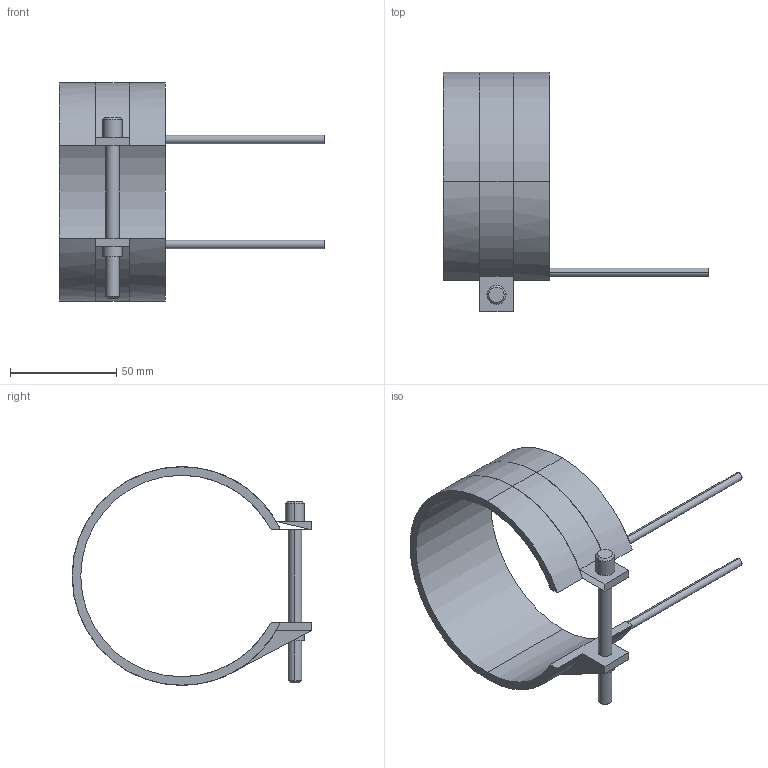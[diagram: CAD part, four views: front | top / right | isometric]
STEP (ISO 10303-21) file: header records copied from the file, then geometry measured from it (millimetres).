
FILE_DESCRIPTION(('CATIA V5 STEP Exchange'),'2;1');
FILE_NAME('C:\Users\Utente\Desktop\IO LAVORO\3D X SITO CF\X SITO\PLASTICA\RF2\14095050.stp','2021-04-06T16:03:07+00:00',('none'),('none'),'CATIA Version 5 Release 20 GA (IN-10)','CATIA V5 STEP AP203','none');
FILE_SCHEMA(('CONFIG_CONTROL_DESIGN'));
Length unit declared in the file: millimetre
Products named in the file (1): 14095050
Bounding box: 125 x 113.1 x 103.2 mm (x, y, z)
Volume: 60426.3 mm3; surface area: 33938.8 mm2
Topology: 1 solids, 1 shells, 45 faces, 116 edges, 76 vertices
Faces by surface type: cylinder 24, plane 17, cone 4
Entity records: 1406 total; most frequent: CARTESIAN_POINT 282, ORIENTED_EDGE 232, DIRECTION 195, EDGE_CURVE 116, AXIS2_PLACEMENT_3D 103, VERTEX_POINT 76, CIRCLE 61, VECTOR 52
